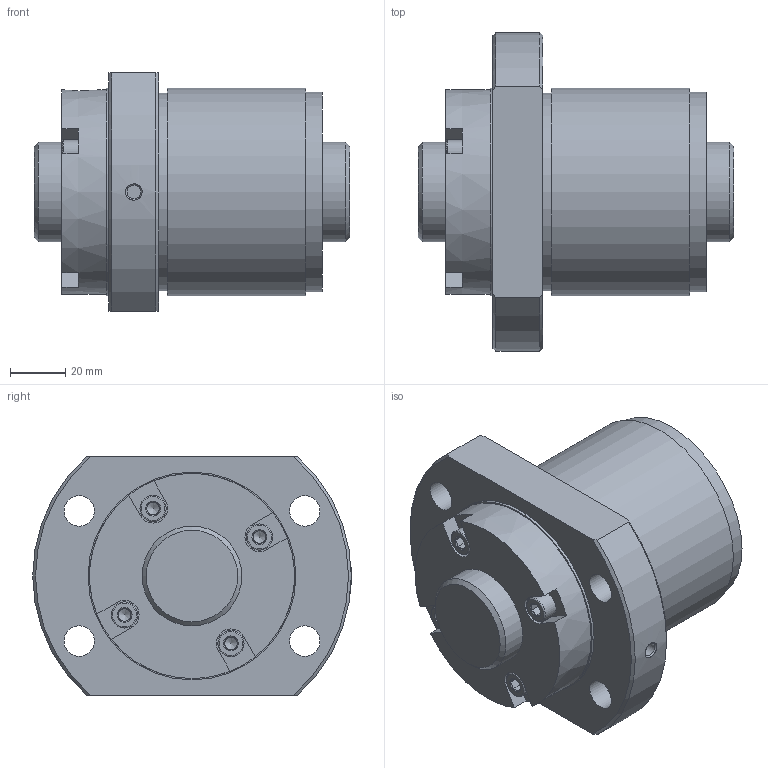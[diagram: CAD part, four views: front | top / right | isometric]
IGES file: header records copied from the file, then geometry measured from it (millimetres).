
Start section: Data from Parasolid IGES Translator 26.0.171, Copyright(c) 2006 Siemens PLM Software. All Rights Reserved.
Global section: file name: BLK3624-5.6G1+114LC3_0_1300.igs; native system: By Siemens PLM Incorporated; preprocessor: XPlus GENERIC/IGES 26.0.171; author: Noname; organization: Noname; date: 20250116.070503; units: millimetre
Bounding box: 114 x 115 x 86 mm (x, y, z)
Surface area: 69490.9 mm2 (no closed solid volume)
Topology: 0 solids, 0 shells, 123 faces, 578 edges, 530 vertices
Faces by surface type: extrusion 76, revolution 47
